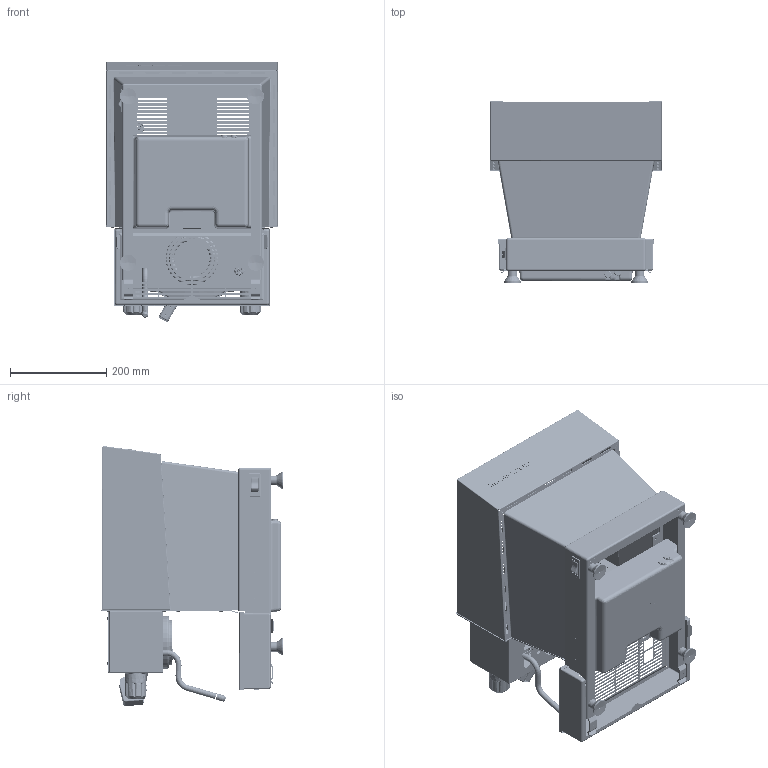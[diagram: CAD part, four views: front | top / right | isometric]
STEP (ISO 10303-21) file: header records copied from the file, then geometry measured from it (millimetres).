
FILE_DESCRIPTION (( 'STEP AP214' ), '1' );
FILE_NAME ('LM0033435_LINEAMINI-2023.STEP', '2023-12-20T09:38:45', ( '' ), ( '' ), 'SwSTEP 2.0', 'SolidWorks 2021', '' );
FILE_SCHEMA (( 'AUTOMOTIVE_DESIGN' ));
Length unit declared in the file: millimetre
Products named in the file (38): LM0010599; LM0028665; LM0001549; LM0030527; LM0030042; LM0033258; LM0028911; LM0021983; LM0033435_LINEAMINI-2023; LM0028983; LM0028989_Superfici estetiche; LM0001968; LM0024598; LM0029701; LM0001097; LM0031299; LM0027440_0-3 bar; LM0001759_VERNICIATURA DEMI SOFT; LM0029153; LM0029419; LM0028919; LM0032311; LM0029553; LM0029428; LM0032452; LM0027440_0-18 bar; LM0029384; LM0002125; LM0031703; LM0031029; LM0029383; LM0021962_Superfici estetiche; LM0029385; LM0024589; LM0031149; LM0031158; LM0028910; LM0028516
Assembly tree (60 placements, depth 4):
  LM0033435_LINEAMINI-2023
    LM0029383
      LM0029385
      LM0029384
      LM0001968  x6
    LM0028516
    LM0028983
    LM0002125  x12
    LM0031299
    LM0032452
    LM0010599  x4
    LM0029419
    LM0001549
    LM0029553
    LM0030042
    LM0029701
    LM0031029
    LM0027440_0-18 bar
    LM0027440_0-3 bar
    LM0029428
    LM0031158
    LM0001759_VERNICIATURA DEMI SOFT  x2
    LM0028911  x2
    LM0028910  x2
    LM0031149
    LM0029153
    LM0031703
    LM0033258
    LM0028665
    LM0030527
    LM0028919
    LM0024589
    LM0024598
    LM0021983
    LM0032311
      LM0028989_Superfici estetiche
        LM0021962_Superfici estetiche
        LM0001097  x2
Bounding box: 357 x 378.16 x 540.15 mm (x, y, z)
Volume: 1756971.1 mm3; surface area: 2178411.8 mm2
Topology: 71 solids, 73 shells, 10841 faces, 27979 edges, 17939 vertices
Faces by surface type: plane 6234, cylinder 2388, bspline 973, cone 759, torus 331, sphere 156
Entity records: 373071 total; most frequent: CARTESIAN_POINT 119766, ORIENTED_EDGE 52028, DIRECTION 40685, EDGE_CURVE 26014, VERTEX_POINT 16767, AXIS2_PLACEMENT_3D 14100, LINE 12485, VECTOR 12485
